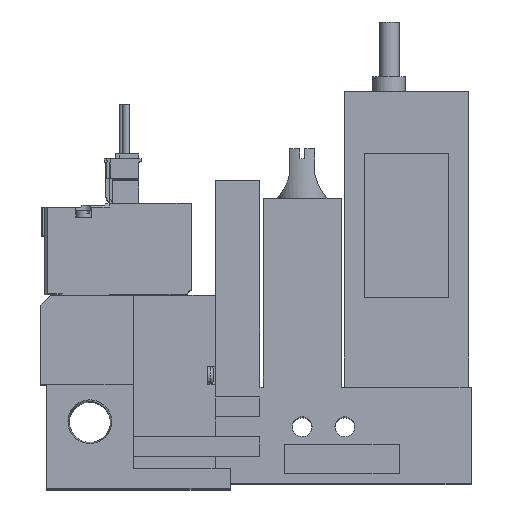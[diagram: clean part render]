
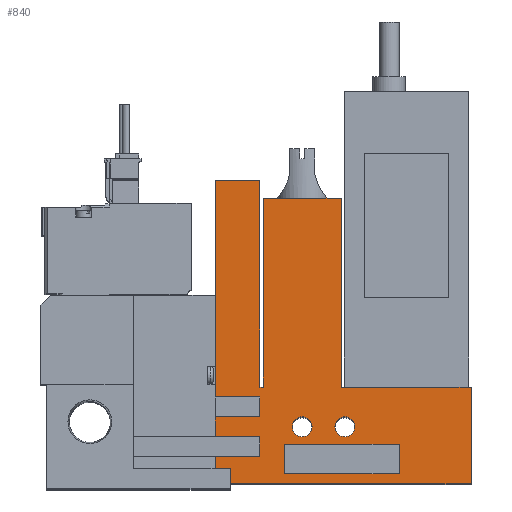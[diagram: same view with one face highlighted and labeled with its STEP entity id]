
A CAD part, top view. The second image highlights one B-rep face of the part: STEP entity #840.
In plain terms, the highlighted planar face has unit normal (0, 0, 1).
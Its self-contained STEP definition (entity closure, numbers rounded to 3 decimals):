
#840=ADVANCED_FACE('',(#1713,#1714,#1715,#1716),#1717,.T.);
#1713=FACE_OUTER_BOUND('',#2847,.T.);
#1714=FACE_BOUND('',#2848,.T.);
#1715=FACE_BOUND('',#2849,.T.);
#1716=FACE_BOUND('',#2850,.T.);
#1717=PLANE('',#2851);
#2847=EDGE_LOOP('',(#5969,#5970,#5971,#5972,#5973,#5974,#5975,#5976,#5977,#5978,#5979,#5980,#5981,#5982,#5983,#5984,#5985,#5986));
#2848=EDGE_LOOP('',(#5987,#5988,#5989,#5990));
#2849=EDGE_LOOP('',(#5991));
#2850=EDGE_LOOP('',(#5992));
#2851=AXIS2_PLACEMENT_3D('',#5993,#5994,#5995);
#5969=ORIENTED_EDGE('',*,*,#7913,.T.);
#5970=ORIENTED_EDGE('',*,*,#7874,.T.);
#5971=ORIENTED_EDGE('',*,*,#7914,.T.);
#5972=ORIENTED_EDGE('',*,*,#7828,.T.);
#5973=ORIENTED_EDGE('',*,*,#7765,.T.);
#5974=ORIENTED_EDGE('',*,*,#7775,.T.);
#5975=ORIENTED_EDGE('',*,*,#7846,.T.);
#5976=ORIENTED_EDGE('',*,*,#7915,.T.);
#5977=ORIENTED_EDGE('',*,*,#7916,.T.);
#5978=ORIENTED_EDGE('',*,*,#7917,.T.);
#5979=ORIENTED_EDGE('',*,*,#7918,.T.);
#5980=ORIENTED_EDGE('',*,*,#7781,.T.);
#5981=ORIENTED_EDGE('',*,*,#7892,.T.);
#5982=ORIENTED_EDGE('',*,*,#7849,.T.);
#5983=ORIENTED_EDGE('',*,*,#7755,.T.);
#5984=ORIENTED_EDGE('',*,*,#7899,.T.);
#5985=ORIENTED_EDGE('',*,*,#7919,.T.);
#5986=ORIENTED_EDGE('',*,*,#7920,.T.);
#5987=ORIENTED_EDGE('',*,*,#7770,.T.);
#5988=ORIENTED_EDGE('',*,*,#7890,.T.);
#5989=ORIENTED_EDGE('',*,*,#7886,.T.);
#5990=ORIENTED_EDGE('',*,*,#7921,.T.);
#5991=ORIENTED_EDGE('',*,*,#7888,.T.);
#5992=ORIENTED_EDGE('',*,*,#7922,.T.);
#5993=CARTESIAN_POINT('',(0.0,0.0,10.0));
#5994=DIRECTION('',(0.0,0.0,1.0));
#5995=DIRECTION('',(1.0,0.0,0.0));
#7755=EDGE_CURVE('',#9419,#9417,#9420,.T.);
#7765=EDGE_CURVE('',#9437,#9435,#9438,.T.);
#7770=EDGE_CURVE('',#9440,#9445,#9447,.T.);
#7775=EDGE_CURVE('',#9435,#9456,#9457,.T.);
#7781=EDGE_CURVE('',#9467,#9465,#9468,.T.);
#7828=EDGE_CURVE('',#9546,#9437,#9552,.T.);
#7846=EDGE_CURVE('',#9456,#9578,#9580,.T.);
#7849=EDGE_CURVE('',#9585,#9419,#9586,.T.);
#7874=EDGE_CURVE('',#9617,#9623,#9625,.T.);
#7886=EDGE_CURVE('',#9636,#9641,#9643,.T.);
#7888=EDGE_CURVE('',#9646,#9646,#9647,.T.);
#7890=EDGE_CURVE('',#9445,#9636,#9649,.T.);
#7892=EDGE_CURVE('',#9465,#9585,#9651,.T.);
#7899=EDGE_CURVE('',#9417,#9660,#9662,.T.);
#7913=EDGE_CURVE('',#9683,#9617,#9684,.T.);
#7914=EDGE_CURVE('',#9623,#9546,#9685,.T.);
#7915=EDGE_CURVE('',#9578,#9686,#9687,.T.);
#7916=EDGE_CURVE('',#9686,#9688,#9689,.T.);
#7917=EDGE_CURVE('',#9688,#9690,#9691,.T.);
#7918=EDGE_CURVE('',#9690,#9467,#9692,.T.);
#7919=EDGE_CURVE('',#9660,#9693,#9694,.T.);
#7920=EDGE_CURVE('',#9693,#9683,#9695,.T.);
#7921=EDGE_CURVE('',#9641,#9440,#9696,.T.);
#7922=EDGE_CURVE('',#9697,#9697,#9698,.T.);
#9417=VERTEX_POINT('',#12094);
#9419=VERTEX_POINT('',#12097);
#9420=LINE('',#12098,#12099);
#9435=VERTEX_POINT('',#12120);
#9437=VERTEX_POINT('',#12123);
#9438=LINE('',#12124,#12125);
#9440=VERTEX_POINT('',#12128);
#9445=VERTEX_POINT('',#12135);
#9447=LINE('',#12138,#12139);
#9456=VERTEX_POINT('',#12152);
#9457=LINE('',#12153,#12154);
#9465=VERTEX_POINT('',#12166);
#9467=VERTEX_POINT('',#12169);
#9468=LINE('',#12170,#12171);
#9546=VERTEX_POINT('',#12289);
#9552=LINE('',#12298,#12299);
#9578=VERTEX_POINT('',#12340);
#9580=LINE('',#12343,#12344);
#9585=VERTEX_POINT('',#12350);
#9586=LINE('',#12351,#12352);
#9617=VERTEX_POINT('',#12399);
#9623=VERTEX_POINT('',#12408);
#9625=LINE('',#12411,#12412);
#9636=VERTEX_POINT('',#12431);
#9641=VERTEX_POINT('',#12438);
#9643=LINE('',#12441,#12442);
#9646=VERTEX_POINT('',#12445);
#9647=CIRCLE('',#12446,2.0);
#9649=LINE('',#12449,#12450);
#9651=LINE('',#12453,#12454);
#9660=VERTEX_POINT('',#12467);
#9662=LINE('',#12470,#12471);
#9683=VERTEX_POINT('',#12504);
#9684=LINE('',#12505,#12506);
#9685=LINE('',#12507,#12508);
#9686=VERTEX_POINT('',#12509);
#9687=LINE('',#12510,#12511);
#9688=VERTEX_POINT('',#12512);
#9689=LINE('',#12513,#12514);
#9690=VERTEX_POINT('',#12515);
#9691=LINE('',#12516,#12517);
#9692=LINE('',#12518,#12519);
#9693=VERTEX_POINT('',#12520);
#9694=LINE('',#12521,#12522);
#9695=LINE('',#12523,#12524);
#9696=LINE('',#12525,#12526);
#9697=VERTEX_POINT('',#12527);
#9698=CIRCLE('',#12528,2.0);
#12094=CARTESIAN_POINT('',(44.75,19.5,10.0));
#12097=CARTESIAN_POINT('',(44.75,57.5,10.0));
#12098=CARTESIAN_POINT('',(44.75,57.5,10.0));
#12099=VECTOR('',#14262,1.0);
#12120=CARTESIAN_POINT('',(35.1,9.5,10.0));
#12123=CARTESIAN_POINT('',(35.1,13.5,10.0));
#12124=CARTESIAN_POINT('',(35.1,0.0,10.0));
#12125=VECTOR('',#14273,1.0);
#12128=CARTESIAN_POINT('',(49.1,2.0,10.0));
#12135=CARTESIAN_POINT('',(49.1,8.0,10.0));
#12138=CARTESIAN_POINT('',(49.1,0.0,10.0));
#12139=VECTOR('',#14278,1.0);
#12152=CARTESIAN_POINT('',(44.1,9.5,10.0));
#12153=CARTESIAN_POINT('',(0.0,9.5,10.0));
#12154=VECTOR('',#14283,1.0);
#12166=CARTESIAN_POINT('',(60.45,19.5,10.0));
#12169=CARTESIAN_POINT('',(86.6,19.5,10.0));
#12170=CARTESIAN_POINT('',(86.6,19.5,10.0));
#12171=VECTOR('',#14289,1.0);
#12289=CARTESIAN_POINT('',(44.1,13.5,10.0));
#12298=CARTESIAN_POINT('',(0.0,13.5,10.0));
#12299=VECTOR('',#14342,1.0);
#12340=CARTESIAN_POINT('',(44.1,5.5,10.0));
#12343=CARTESIAN_POINT('',(44.1,0.0,10.0));
#12344=VECTOR('',#14362,1.0);
#12350=CARTESIAN_POINT('',(60.45,57.5,10.0));
#12351=CARTESIAN_POINT('',(60.45,57.5,10.0));
#12352=VECTOR('',#14367,1.0);
#12399=CARTESIAN_POINT('',(35.1,17.5,10.0));
#12408=CARTESIAN_POINT('',(44.1,17.5,10.0));
#12411=CARTESIAN_POINT('',(0.0,17.5,10.0));
#12412=VECTOR('',#14400,1.0);
#12431=CARTESIAN_POINT('',(72.1,8.0,10.0));
#12438=CARTESIAN_POINT('',(72.1,2.0,10.0));
#12441=CARTESIAN_POINT('',(72.1,0.0,10.0));
#12442=VECTOR('',#14412,1.0);
#12445=CARTESIAN_POINT('',(54.6,11.5,10.0));
#12446=AXIS2_PLACEMENT_3D('',#14416,#14417,#14418);
#12449=CARTESIAN_POINT('',(0.0,8.0,10.0));
#12450=VECTOR('',#14420,1.0);
#12453=CARTESIAN_POINT('',(60.45,19.5,10.0));
#12454=VECTOR('',#14422,1.0);
#12467=CARTESIAN_POINT('',(44.1,19.5,10.0));
#12470=CARTESIAN_POINT('',(44.75,19.5,10.0));
#12471=VECTOR('',#14431,1.0);
#12504=CARTESIAN_POINT('',(35.1,61.0,10.0));
#12505=CARTESIAN_POINT('',(35.1,61.0,10.0));
#12506=VECTOR('',#14447,1.0);
#12507=CARTESIAN_POINT('',(44.1,0.0,10.0));
#12508=VECTOR('',#14448,1.0);
#12509=CARTESIAN_POINT('',(35.1,5.5,10.0));
#12510=CARTESIAN_POINT('',(0.0,5.5,10.0));
#12511=VECTOR('',#14449,1.0);
#12512=CARTESIAN_POINT('',(35.1,0.0,10.0));
#12513=CARTESIAN_POINT('',(35.1,0.0,10.0));
#12514=VECTOR('',#14450,1.0);
#12515=CARTESIAN_POINT('',(86.6,0.0,10.0));
#12516=CARTESIAN_POINT('',(18.6,0.0,10.0));
#12517=VECTOR('',#14451,1.0);
#12518=CARTESIAN_POINT('',(86.6,0.0,10.0));
#12519=VECTOR('',#14452,1.0);
#12520=CARTESIAN_POINT('',(44.1,61.0,10.0));
#12521=CARTESIAN_POINT('',(44.1,19.5,10.0));
#12522=VECTOR('',#14453,1.0);
#12523=CARTESIAN_POINT('',(44.1,61.0,10.0));
#12524=VECTOR('',#14454,1.0);
#12525=CARTESIAN_POINT('',(0.0,2.0,10.0));
#12526=VECTOR('',#14455,1.0);
#12527=CARTESIAN_POINT('',(63.2,11.5,10.0));
#12528=AXIS2_PLACEMENT_3D('',#14456,#14457,#14458);
#14262=DIRECTION('',(0.0,-1.0,0.0));
#14273=DIRECTION('',(0.0,-1.0,0.0));
#14278=DIRECTION('',(0.0,1.0,0.0));
#14283=DIRECTION('',(1.0,0.0,0.0));
#14289=DIRECTION('',(-1.0,0.0,0.0));
#14342=DIRECTION('',(-1.0,0.0,0.0));
#14362=DIRECTION('',(0.0,-1.0,0.0));
#14367=DIRECTION('',(-1.0,0.0,0.0));
#14400=DIRECTION('',(1.0,0.0,0.0));
#14412=DIRECTION('',(0.0,-1.0,0.0));
#14416=CARTESIAN_POINT('',(52.6,11.5,10.0));
#14417=DIRECTION('',(0.0,0.0,-1.0));
#14418=DIRECTION('',(1.0,0.0,0.0));
#14420=DIRECTION('',(1.0,0.0,0.0));
#14422=DIRECTION('',(0.0,1.0,0.0));
#14431=DIRECTION('',(-1.0,0.0,0.0));
#14447=DIRECTION('',(0.0,-1.0,0.0));
#14448=DIRECTION('',(0.0,-1.0,0.0));
#14449=DIRECTION('',(-1.0,0.0,0.0));
#14450=DIRECTION('',(0.0,-1.0,0.0));
#14451=DIRECTION('',(1.0,0.0,0.0));
#14452=DIRECTION('',(0.0,1.0,0.0));
#14453=DIRECTION('',(0.0,1.0,0.0));
#14454=DIRECTION('',(-1.0,0.0,0.0));
#14455=DIRECTION('',(-1.0,0.0,0.0));
#14456=CARTESIAN_POINT('',(61.2,11.5,10.0));
#14457=DIRECTION('',(0.0,0.0,-1.0));
#14458=DIRECTION('',(1.0,0.0,0.0));
